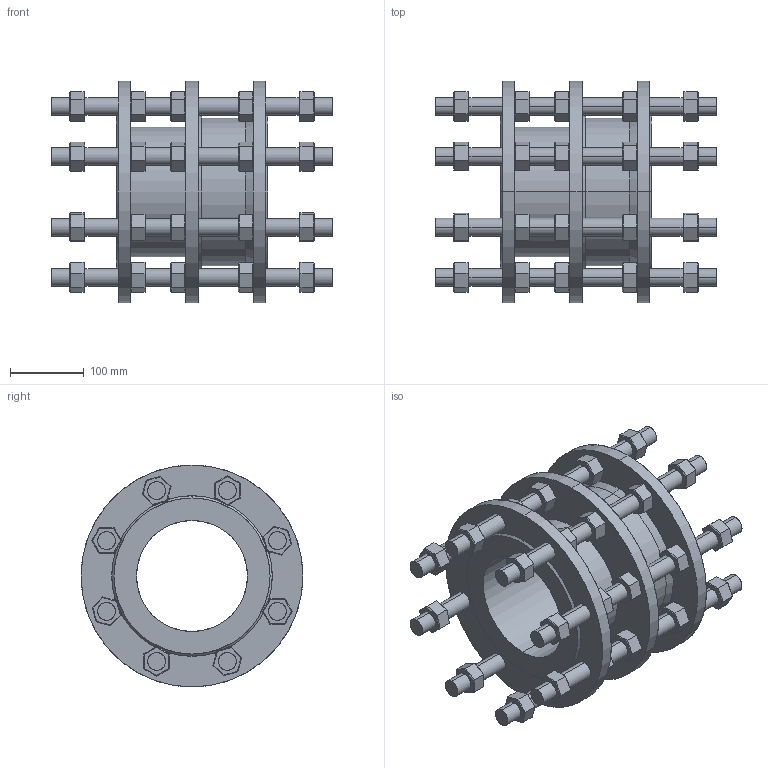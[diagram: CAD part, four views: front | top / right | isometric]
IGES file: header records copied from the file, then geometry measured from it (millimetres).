
Start section: SolidWorks IGES file using analytic representation for surfaces
Global section: file name: X:\AR\CV\873\873-0150-00-741000\873015000741000.IGS; native system: SolidWorks 2020; preprocessor: SolidWorks 2020; author: m.lucatello; date: 211012.170129; units: millimetre
Bounding box: 380 x 300 x 300 mm (x, y, z)
Surface area: 891925 mm2 (no closed solid volume)
Topology: 0 solids, 0 shells, 1149 faces, 10416 edges, 10416 vertices
Faces by surface type: bspline 825, revolution 324
